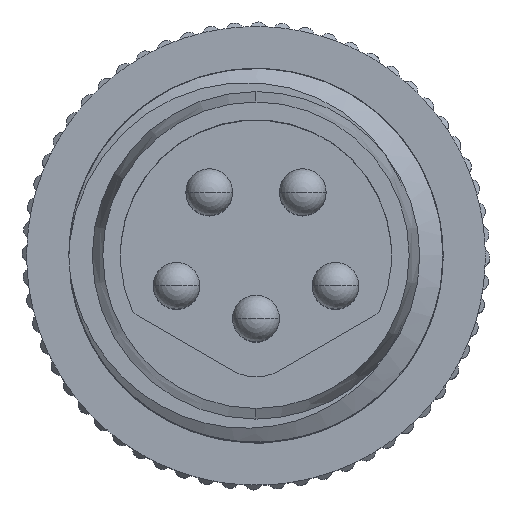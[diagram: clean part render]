
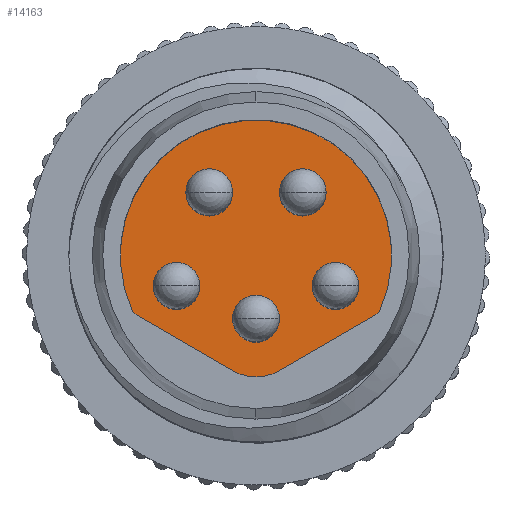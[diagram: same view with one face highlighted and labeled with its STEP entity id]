
A CAD part, top view. The second image highlights one B-rep face of the part: STEP entity #14163.
In plain terms, the highlighted planar face has unit normal (0, 0, 1).
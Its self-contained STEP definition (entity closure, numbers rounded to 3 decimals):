
#4522=CARTESIAN_POINT('',(0.,0.,11.8));
#4523=DIRECTION('',(0.,0.,1.));
#4524=DIRECTION('',(0.913,-0.407,0.));
#4525=AXIS2_PLACEMENT_3D('',#4522,#4523,#4524);
#4541=CARTESIAN_POINT('',(-1.,1.35,11.8));
#4542=DIRECTION('',(0.,0.,1.));
#4543=DIRECTION('',(1.,0.,0.));
#4544=AXIS2_PLACEMENT_3D('',#4541,#4542,#4543);
#4546=CARTESIAN_POINT('',(-1.,1.35,11.8));
#4547=DIRECTION('',(0.,0.,-1.));
#4548=DIRECTION('',(1.,0.,0.));
#4549=AXIS2_PLACEMENT_3D('',#4546,#4547,#4548);
#4551=CARTESIAN_POINT('',(1.,1.35,11.8));
#4552=DIRECTION('',(0.,0.,1.));
#4553=DIRECTION('',(1.,0.,0.));
#4554=AXIS2_PLACEMENT_3D('',#4551,#4552,#4553);
#4556=CARTESIAN_POINT('',(1.,1.35,11.8));
#4557=DIRECTION('',(0.,0.,-1.));
#4558=DIRECTION('',(1.,0.,0.));
#4559=AXIS2_PLACEMENT_3D('',#4556,#4557,#4558);
#4561=CARTESIAN_POINT('',(1.7,-0.65,11.8));
#4562=DIRECTION('',(0.,0.,1.));
#4563=DIRECTION('',(1.,0.,0.));
#4564=AXIS2_PLACEMENT_3D('',#4561,#4562,#4563);
#4566=CARTESIAN_POINT('',(1.7,-0.65,11.8));
#4567=DIRECTION('',(0.,0.,-1.));
#4568=DIRECTION('',(1.,0.,0.));
#4569=AXIS2_PLACEMENT_3D('',#4566,#4567,#4568);
#4571=CARTESIAN_POINT('',(-1.7,-0.65,11.8));
#4572=DIRECTION('',(0.,0.,1.));
#4573=DIRECTION('',(1.,0.,0.));
#4574=AXIS2_PLACEMENT_3D('',#4571,#4572,#4573);
#4576=CARTESIAN_POINT('',(-1.7,-0.65,11.8));
#4577=DIRECTION('',(0.,0.,-1.));
#4578=DIRECTION('',(1.,0.,0.));
#4579=AXIS2_PLACEMENT_3D('',#4576,#4577,#4578);
#4581=CARTESIAN_POINT('',(2.466,-1.1,11.8));
#4582=DIRECTION('',(0.,0.,1.));
#4583=DIRECTION('',(0.5,-0.866,0.));
#4584=AXIS2_PLACEMENT_3D('',#4581,#4582,#4583);
#4586=DIRECTION('',(-0.866,-0.5,0.));
#4587=VECTOR('',#4586,2.385);
#4588=CARTESIAN_POINT('',(2.566,-1.273,11.8));
#4589=LINE('',#4588,#4587);
#4590=CARTESIAN_POINT('',(0.,-1.6,11.8));
#4591=DIRECTION('',(0.,0.,1.));
#4592=DIRECTION('',(-0.5,-0.866,0.));
#4593=AXIS2_PLACEMENT_3D('',#4590,#4591,#4592);
#4595=DIRECTION('',(-0.866,0.5,0.));
#4596=VECTOR('',#4595,2.385);
#4597=CARTESIAN_POINT('',(-0.5,-2.466,11.8));
#4598=LINE('',#4597,#4596);
#4599=CARTESIAN_POINT('',(-2.466,-1.1,11.8));
#4600=DIRECTION('',(0.,0.,1.));
#4601=DIRECTION('',(-0.913,-0.407,0.));
#4602=AXIS2_PLACEMENT_3D('',#4599,#4600,#4601);
#4604=CARTESIAN_POINT('',(0.,-1.35,11.8));
#4605=DIRECTION('',(0.,0.,1.));
#4606=DIRECTION('',(1.,0.,0.));
#4607=AXIS2_PLACEMENT_3D('',#4604,#4605,#4606);
#4609=CARTESIAN_POINT('',(0.,-1.35,11.8));
#4610=DIRECTION('',(0.,0.,1.));
#4611=DIRECTION('',(-1.,0.,0.));
#4612=AXIS2_PLACEMENT_3D('',#4609,#4610,#4611);
#9110=CARTESIAN_POINT('',(2.2,-0.65,11.8));
#9111=VERTEX_POINT('',#9110);
#9112=CARTESIAN_POINT('',(1.2,-0.65,11.8));
#9113=VERTEX_POINT('',#9112);
#9120=CARTESIAN_POINT('',(1.5,1.35,11.8));
#9121=VERTEX_POINT('',#9120);
#9122=CARTESIAN_POINT('',(0.5,1.35,11.8));
#9123=VERTEX_POINT('',#9122);
#9130=CARTESIAN_POINT('',(-0.5,1.35,11.8));
#9131=VERTEX_POINT('',#9130);
#9132=CARTESIAN_POINT('',(-1.5,1.35,11.8));
#9133=VERTEX_POINT('',#9132);
#9140=CARTESIAN_POINT('',(-1.2,-0.65,11.8));
#9141=VERTEX_POINT('',#9140);
#9142=CARTESIAN_POINT('',(-2.2,-0.65,11.8));
#9143=VERTEX_POINT('',#9142);
#9153=CARTESIAN_POINT('',(-0.5,-2.466,11.8));
#9154=CARTESIAN_POINT('',(0.5,-2.466,11.8));
#9155=VERTEX_POINT('',#9153);
#9156=VERTEX_POINT('',#9154);
#9157=CARTESIAN_POINT('',(2.566,-1.273,11.8));
#9158=CARTESIAN_POINT('',(2.648,-1.182,11.8));
#9159=VERTEX_POINT('',#9157);
#9160=VERTEX_POINT('',#9158);
#9165=CARTESIAN_POINT('',(-2.648,-1.182,11.8));
#9167=VERTEX_POINT('',#9165);
#9169=CARTESIAN_POINT('',(-2.566,-1.273,11.8));
#9170=VERTEX_POINT('',#9169);
#9173=CARTESIAN_POINT('',(0.5,-1.35,11.8));
#9174=CARTESIAN_POINT('',(-0.5,-1.35,11.8));
#9175=VERTEX_POINT('',#9173);
#9176=VERTEX_POINT('',#9174);
#14116=CARTESIAN_POINT('',(0.,0.,11.8));
#14117=DIRECTION('',(0.,0.,1.));
#14118=DIRECTION('',(0.,1.,0.));
#14119=AXIS2_PLACEMENT_3D('',#14116,#14117,#14118);
#14120=PLANE('',#14119);
#14121=ORIENTED_EDGE('',*,*,#14107,.F.);
#14123=ORIENTED_EDGE('',*,*,#14122,.T.);
#14125=ORIENTED_EDGE('',*,*,#14124,.F.);
#14127=ORIENTED_EDGE('',*,*,#14126,.T.);
#14129=ORIENTED_EDGE('',*,*,#14128,.F.);
#14130=ORIENTED_EDGE('',*,*,#14094,.F.);
#14131=EDGE_LOOP('',(#14121,#14123,#14125,#14127,#14129,#14130));
#14132=FACE_OUTER_BOUND('',#14131,.F.);
#14134=ORIENTED_EDGE('',*,*,#14133,.T.);
#14136=ORIENTED_EDGE('',*,*,#14135,.F.);
#14137=EDGE_LOOP('',(#14134,#14136));
#14138=FACE_BOUND('',#14137,.F.);
#14140=ORIENTED_EDGE('',*,*,#14139,.T.);
#14142=ORIENTED_EDGE('',*,*,#14141,.F.);
#14143=EDGE_LOOP('',(#14140,#14142));
#14144=FACE_BOUND('',#14143,.F.);
#14146=ORIENTED_EDGE('',*,*,#14145,.T.);
#14148=ORIENTED_EDGE('',*,*,#14147,.F.);
#14149=EDGE_LOOP('',(#14146,#14148));
#14150=FACE_BOUND('',#14149,.F.);
#14152=ORIENTED_EDGE('',*,*,#14151,.T.);
#14154=ORIENTED_EDGE('',*,*,#14153,.F.);
#14155=EDGE_LOOP('',(#14152,#14154));
#14156=FACE_BOUND('',#14155,.F.);
#14158=ORIENTED_EDGE('',*,*,#14157,.T.);
#14160=ORIENTED_EDGE('',*,*,#14159,.T.);
#14161=EDGE_LOOP('',(#14158,#14160));
#14162=FACE_BOUND('',#14161,.F.);
#4526=CIRCLE('',#4525,2.9);
#4545=CIRCLE('',#4544,0.5);
#4550=CIRCLE('',#4549,0.5);
#4555=CIRCLE('',#4554,0.5);
#4560=CIRCLE('',#4559,0.5);
#4565=CIRCLE('',#4564,0.5);
#4570=CIRCLE('',#4569,0.5);
#4575=CIRCLE('',#4574,0.5);
#4580=CIRCLE('',#4579,0.5);
#4585=CIRCLE('',#4584,0.2);
#4594=CIRCLE('',#4593,1.);
#4603=CIRCLE('',#4602,0.2);
#4608=CIRCLE('',#4607,0.5);
#4613=CIRCLE('',#4612,0.5);
#14094=EDGE_CURVE('',#9160,#9167,#4526,.T.);
#14107=EDGE_CURVE('',#9159,#9160,#4585,.T.);
#14122=EDGE_CURVE('',#9159,#9156,#4589,.T.);
#14124=EDGE_CURVE('',#9155,#9156,#4594,.T.);
#14126=EDGE_CURVE('',#9155,#9170,#4598,.T.);
#14128=EDGE_CURVE('',#9167,#9170,#4603,.T.);
#14133=EDGE_CURVE('',#9121,#9123,#4555,.T.);
#14135=EDGE_CURVE('',#9121,#9123,#4560,.T.);
#14139=EDGE_CURVE('',#9111,#9113,#4565,.T.);
#14141=EDGE_CURVE('',#9111,#9113,#4570,.T.);
#14145=EDGE_CURVE('',#9141,#9143,#4575,.T.);
#14147=EDGE_CURVE('',#9141,#9143,#4580,.T.);
#14151=EDGE_CURVE('',#9131,#9133,#4545,.T.);
#14153=EDGE_CURVE('',#9131,#9133,#4550,.T.);
#14157=EDGE_CURVE('',#9175,#9176,#4608,.T.);
#14159=EDGE_CURVE('',#9176,#9175,#4613,.T.);
#14163=ADVANCED_FACE('',(#14132,#14138,#14144,#14150,#14156,#14162),#14120,.T.);
